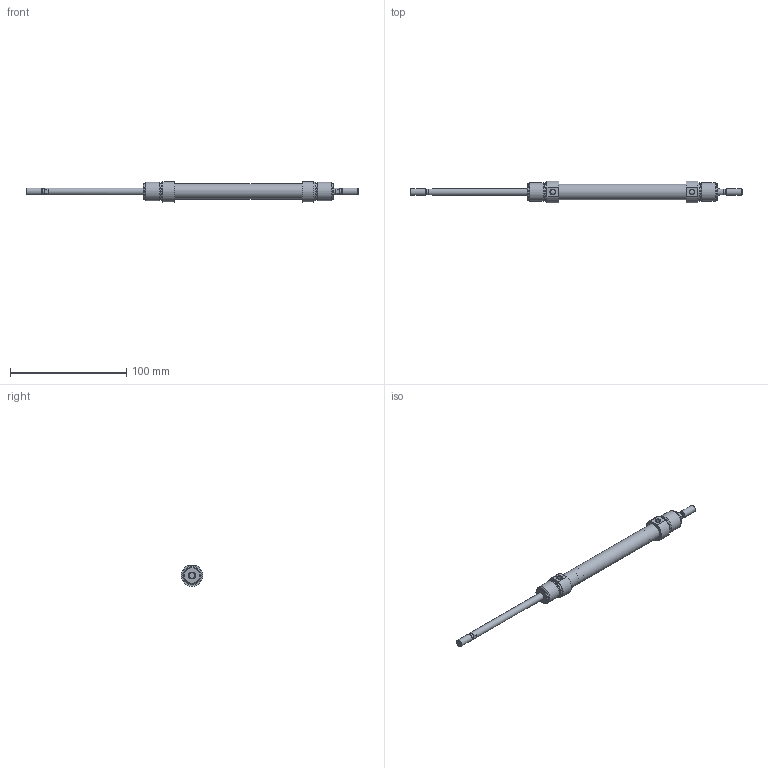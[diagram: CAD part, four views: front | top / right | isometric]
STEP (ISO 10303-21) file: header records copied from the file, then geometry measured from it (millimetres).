
FILE_DESCRIPTION( ( 'STEP AP203' ), '1' );
FILE_NAME( '//expscmdclustefs.cadenas.external/client_exchange/iodir/jobs/output/wkb68360813_no0/STEP/M101-012-0080-M__0__2_03.stp', ' ', ( ' ' ), ( ' ' ), 'PSStep 15.0.47', 'PARTsolutions', ' ' );
FILE_SCHEMA( ( 'CONFIG_CONTROL_DESIGN' ) );
Length unit declared in the file: millimetre
Products named in the file (3): M101-012-0080-M [0]; HI_M101-012-0080-M-[0]-z; HI_M101-012-0080-M-[0]-k
Assembly tree (2 placements, depth 2):
  M101-012-0080-M [0]
    HI_M101-012-0080-M-[0]-z
    HI_M101-012-0080-M-[0]-k
Bounding box: 286 x 18.73 x 17.86 mm (x, y, z)
Volume: 23725.5 mm3; surface area: 18954.3 mm2
Topology: 2 solids, 2 shells, 65 faces, 129 edges, 80 vertices
Faces by surface type: plane 26, cylinder 23, cone 14, torus 2
Full cylindrical faces by diameter (mm): 4.134 x2, 4.773 x2, 6 x6, 12 x2, 13.3 x1, 14.16 x4, 16 x4
Entity records: 1670 total; most frequent: CARTESIAN_POINT 324, DIRECTION 280, ORIENTED_EDGE 184, AXIS2_PLACEMENT_3D 128, EDGE_LOOP 116, EDGE_CURVE 92, FACE_OUTER_BOUND 88, VERTEX_POINT 76
